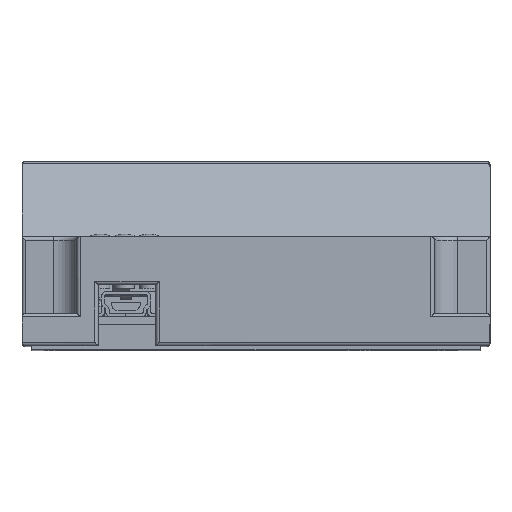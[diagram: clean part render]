
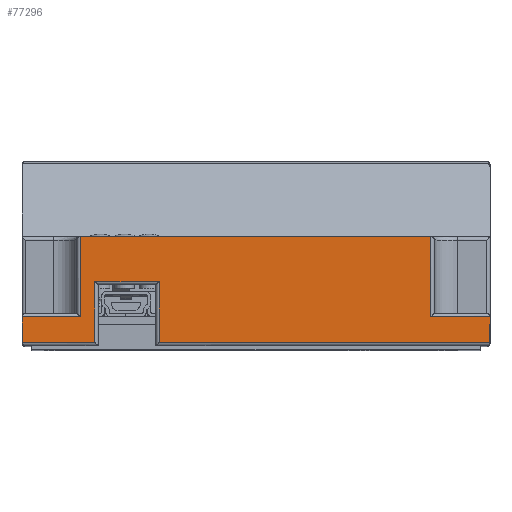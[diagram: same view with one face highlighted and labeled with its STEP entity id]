
A CAD part, top view. The second image highlights one B-rep face of the part: STEP entity #77296.
In plain terms, the highlighted planar face has unit normal (0, 0, 1).
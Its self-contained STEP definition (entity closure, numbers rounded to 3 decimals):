
#773 = LINE ( 'NONE', #53396, #3963 ) ;
#2415 = VERTEX_POINT ( 'NONE', #43882 ) ;
#3963 = VECTOR ( 'NONE', #86983, 1000. ) ;
#4022 = LINE ( 'NONE', #86107, #87798 ) ;
#4820 = VERTEX_POINT ( 'NONE', #55337 ) ;
#5582 = VERTEX_POINT ( 'NONE', #86105 ) ;
#6062 = VECTOR ( 'NONE', #30535, 1000. ) ;
#7178 = EDGE_CURVE ( 'NONE', #25951, #33822, #50201, .T. ) ;
#7942 = CARTESIAN_POINT ( 'NONE',  ( 9.06, 0., 0. ) ) ;
#8856 = CARTESIAN_POINT ( 'NONE',  ( 0., 10., 0. ) ) ;
#9644 = EDGE_CURVE ( 'NONE', #80204, #2415, #86714, .T. ) ;
#10873 = EDGE_CURVE ( 'NONE', #47335, #5582, #87213, .T. ) ;
#12026 = EDGE_CURVE ( 'NONE', #5582, #83331, #75002, .T. ) ;
#12591 = CARTESIAN_POINT ( 'NONE',  ( 21.38, 0., 0. ) ) ;
#14061 = DIRECTION ( 'NONE',  ( 0., 0., 1. ) ) ;
#15666 = FACE_OUTER_BOUND ( 'NONE', #56272, .T. ) ;
#16632 = VECTOR ( 'NONE', #26848, 1000. ) ;
#17386 = ORIENTED_EDGE ( 'NONE', *, *, #21961, .T. ) ;
#17714 = ORIENTED_EDGE ( 'NONE', *, *, #9644, .F. ) ;
#20076 = VECTOR ( 'NONE', #26671, 1000. ) ;
#21312 = DIRECTION ( 'NONE',  ( -1., 0., 0. ) ) ;
#21796 = VECTOR ( 'NONE', #44845, 1000. ) ;
#21961 = EDGE_CURVE ( 'NONE', #43015, #31013, #773, .T. ) ;
#22215 = EDGE_CURVE ( 'NONE', #4820, #73215, #53684, .T. ) ;
#22847 = DIRECTION ( 'NONE',  ( 0., -1., 0. ) ) ;
#25951 = VERTEX_POINT ( 'NONE', #30404 ) ;
#26545 = CARTESIAN_POINT ( 'NONE',  ( 0., 4.5, 0. ) ) ;
#26671 = DIRECTION ( 'NONE',  ( -1., 0., 0. ) ) ;
#26848 = DIRECTION ( 'NONE',  ( -1., 0., 0. ) ) ;
#27670 = DIRECTION ( 'NONE',  ( 1., 0., 0. ) ) ;
#28368 = EDGE_CURVE ( 'NONE', #25951, #43015, #78517, .T. ) ;
#28445 = CARTESIAN_POINT ( 'NONE',  ( 0., 4.5, 0. ) ) ;
#29470 = LINE ( 'NONE', #7942, #87860 ) ;
#29586 = ORIENTED_EDGE ( 'NONE', *, *, #10873, .T. ) ;
#30088 = ORIENTED_EDGE ( 'NONE', *, *, #7178, .F. ) ;
#30404 = CARTESIAN_POINT ( 'NONE',  ( 73., 4.5, 0. ) ) ;
#30535 = DIRECTION ( 'NONE',  ( -1., 0., 0. ) ) ;
#31013 = VERTEX_POINT ( 'NONE', #82910 ) ;
#32196 = VECTOR ( 'NONE', #22847, 1000. ) ;
#33822 = VERTEX_POINT ( 'NONE', #35983 ) ;
#34048 = EDGE_CURVE ( 'NONE', #73215, #2415, #86656, .T. ) ;
#35983 = CARTESIAN_POINT ( 'NONE',  ( 73., 0.5, 0. ) ) ;
#37323 = VECTOR ( 'NONE', #49461, 1000. ) ;
#39239 = AXIS2_PLACEMENT_3D ( 'NONE', #60585, #14061, #27670 ) ;
#40310 = ORIENTED_EDGE ( 'NONE', *, *, #12026, .T. ) ;
#42692 = CARTESIAN_POINT ( 'NONE',  ( 11.38, 0.5, 0. ) ) ;
#43015 = VERTEX_POINT ( 'NONE', #44382 ) ;
#43882 = CARTESIAN_POINT ( 'NONE',  ( 0., 0.5, 0. ) ) ;
#44313 = DIRECTION ( 'NONE',  ( 0., 1., 0. ) ) ;
#44382 = CARTESIAN_POINT ( 'NONE',  ( 63.79, 4.5, 0. ) ) ;
#44541 = DIRECTION ( 'NONE',  ( -1., 0., 0. ) ) ;
#44845 = DIRECTION ( 'NONE',  ( 0., -1., 0. ) ) ;
#46976 = PLANE ( 'NONE',  #39239 ) ;
#47335 = VERTEX_POINT ( 'NONE', #48547 ) ;
#48547 = CARTESIAN_POINT ( 'NONE',  ( 11.38, 10., 0. ) ) ;
#49152 = EDGE_CURVE ( 'NONE', #62489, #4820, #29470, .T. ) ;
#49461 = DIRECTION ( 'NONE',  ( 1., 0., 0. ) ) ;
#49828 = CARTESIAN_POINT ( 'NONE',  ( 73., 0., 0. ) ) ;
#50053 = CARTESIAN_POINT ( 'NONE',  ( 21.38, 0.5, 0. ) ) ;
#50201 = LINE ( 'NONE', #49828, #32196 ) ;
#52316 = DIRECTION ( 'NONE',  ( 0., -1., 0. ) ) ;
#53396 = CARTESIAN_POINT ( 'NONE',  ( 63.79, 0., 0. ) ) ;
#53652 = CARTESIAN_POINT ( 'NONE',  ( 0., 4.5, 0. ) ) ;
#53684 = LINE ( 'NONE', #28445, #64259 ) ;
#53690 = EDGE_CURVE ( 'NONE', #33822, #83331, #4022, .T. ) ;
#53802 = VECTOR ( 'NONE', #52316, 1000. ) ;
#54589 = ORIENTED_EDGE ( 'NONE', *, *, #71716, .T. ) ;
#55337 = CARTESIAN_POINT ( 'NONE',  ( 9.06, 4.5, 0. ) ) ;
#55560 = EDGE_CURVE ( 'NONE', #31013, #62489, #76097, .T. ) ;
#56272 = EDGE_LOOP ( 'NONE', ( #74867, #67376, #87324, #81138, #17714, #54589, #29586, #40310, #57344, #30088, #80902, #17386 ) ) ;
#57344 = ORIENTED_EDGE ( 'NONE', *, *, #53690, .F. ) ;
#60585 = CARTESIAN_POINT ( 'NONE',  ( 0., 0., 0. ) ) ;
#62489 = VERTEX_POINT ( 'NONE', #83200 ) ;
#62754 = DIRECTION ( 'NONE',  ( 0., -1., 0. ) ) ;
#63145 = CARTESIAN_POINT ( 'NONE',  ( 0., 17., 0. ) ) ;
#64259 = VECTOR ( 'NONE', #21312, 1000. ) ;
#67376 = ORIENTED_EDGE ( 'NONE', *, *, #49152, .T. ) ;
#71335 = CARTESIAN_POINT ( 'NONE',  ( 11.38, 0., 0. ) ) ;
#71716 = EDGE_CURVE ( 'NONE', #80204, #47335, #83179, .T. ) ;
#73215 = VERTEX_POINT ( 'NONE', #26545 ) ;
#74867 = ORIENTED_EDGE ( 'NONE', *, *, #55560, .T. ) ;
#75002 = LINE ( 'NONE', #12591, #53802 ) ;
#76097 = LINE ( 'NONE', #63145, #6062 ) ;
#77296 = ADVANCED_FACE ( 'NONE', ( #15666 ), #46976, .T. ) ;
#78517 = LINE ( 'NONE', #53652, #20076 ) ;
#80204 = VERTEX_POINT ( 'NONE', #42692 ) ;
#80887 = CARTESIAN_POINT ( 'NONE',  ( 168.163, 0.5, 0. ) ) ;
#80902 = ORIENTED_EDGE ( 'NONE', *, *, #28368, .T. ) ;
#81138 = ORIENTED_EDGE ( 'NONE', *, *, #34048, .T. ) ;
#82910 = CARTESIAN_POINT ( 'NONE',  ( 63.79, 17., 0. ) ) ;
#83179 = LINE ( 'NONE', #71335, #84227 ) ;
#83200 = CARTESIAN_POINT ( 'NONE',  ( 9.06, 17., 0. ) ) ;
#83331 = VERTEX_POINT ( 'NONE', #50053 ) ;
#84227 = VECTOR ( 'NONE', #44313, 1000. ) ;
#85824 = CARTESIAN_POINT ( 'NONE',  ( 0., 0., 0. ) ) ;
#86105 = CARTESIAN_POINT ( 'NONE',  ( 21.38, 10., 0. ) ) ;
#86107 = CARTESIAN_POINT ( 'NONE',  ( 168.163, 0.5, 0. ) ) ;
#86656 = LINE ( 'NONE', #85824, #21796 ) ;
#86714 = LINE ( 'NONE', #80887, #16632 ) ;
#86983 = DIRECTION ( 'NONE',  ( 0., 1., 0. ) ) ;
#87213 = LINE ( 'NONE', #8856, #37323 ) ;
#87324 = ORIENTED_EDGE ( 'NONE', *, *, #22215, .T. ) ;
#87798 = VECTOR ( 'NONE', #44541, 1000. ) ;
#87860 = VECTOR ( 'NONE', #62754, 1000. ) ;
